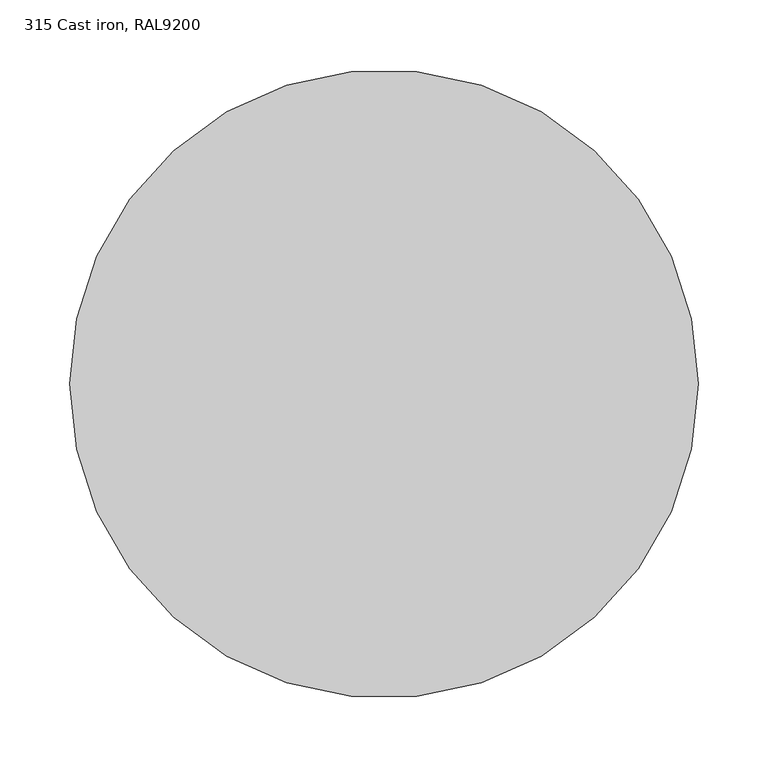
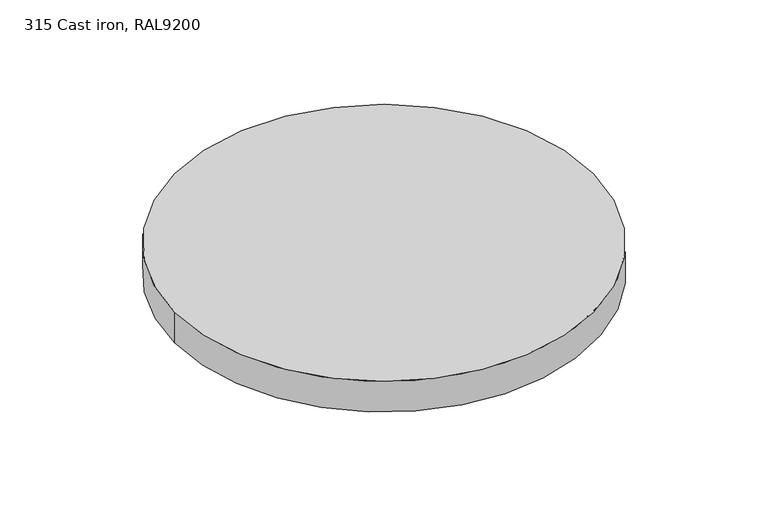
"""IFC4 building model written with IfcOpenShell, lengths in millimetres: pipe fitting geometry, Z_PIF_UN_Q-Bic_Plus_Round_Cover_Wavin_(nested) : 315 Cast iron, RAL9200."""

import ifcopenshell
import ifcopenshell.guid

model = None  # the IFC model being written
_history = None  # IfcOwnerHistory: only IFC2X3 demands one
_inside = {}  # id of a spatial element -> (the spatial element, [elements in it])
_under = {}  # id of a project, library or spatial element -> (it, [spatial elements below it])
_declared = {}  # id of a project -> (the project, [libraries it declares])
_typed = {}  # id of a type object -> (the type object, [elements of that type])
_made_of = {}  # id of a material, layer set ... -> (it, [elements and type objects made of it])


def new_model(schema):
    """Start an empty IFC model of exactly this schema.

    Asked for "IFC4X3", IfcOpenShell would pick the latest addendum, in which some entities
    have other attributes; the version numbers below select the first issue.
    IFC2X3 requires an IfcOwnerHistory on every rooted entity: one is made here for all.
    """
    global model, _history
    if schema == "IFC4X3":
        model = ifcopenshell.file(schema_version=(4, 3, 0, 0))
    else:
        model = ifcopenshell.file(schema=schema)
    _inside.clear()
    _under.clear()
    _declared.clear()
    _typed.clear()
    _made_of.clear()
    _history = None
    if model.schema == "IFC2X3":
        org = make("IfcOrganization", Name="unknown")
        user = make(
            "IfcPersonAndOrganization",
            ThePerson=make("IfcPerson", FamilyName="unknown"),
            TheOrganization=org,
        )
        app = make(
            "IfcApplication",
            ApplicationDeveloper=org,
            Version="unknown",
            ApplicationFullName="unknown",
            ApplicationIdentifier="unknown",
        )
        _history = make(
            "IfcOwnerHistory",
            OwningUser=user,
            OwningApplication=app,
            ChangeAction="ADDED",
            CreationDate=0,
        )
    return model


def make(cls, **values):
    """One entity of the class cls with the attributes given. An attribute that is None is left unset."""
    return model.create_entity(
        cls, **{name: value for name, value in values.items() if value is not None}
    )


def rooted(cls, **values):
    """An entity with a GlobalId (a new one), such as an element, a storey or a relation."""
    return make(cls, GlobalId=ifcopenshell.guid.new(), OwnerHistory=_history, **values)


def si_unit(unit_type, name, prefix=None):
    """IfcSIUnit, for example si_unit("LENGTHUNIT", "METRE", prefix="MILLI")."""
    return make("IfcSIUnit", UnitType=unit_type, Prefix=prefix, Name=name)


def assignment(units):
    """IfcUnitAssignment: the units of a project."""
    return None if units is None else make("IfcUnitAssignment", Units=units)


def point(xyz):
    """IfcCartesianPoint."""
    return None if xyz is None else make("IfcCartesianPoint", Coordinates=xyz)


def direction(xyz):
    """IfcDirection."""
    return None if xyz is None else make("IfcDirection", DirectionRatios=xyz)


def frame(location, z_axis=None, x_axis=None):
    """IfcAxis2Placement3D, a coordinate frame: its origin and axes. An axis left out is left unset."""
    return make(
        "IfcAxis2Placement3D",
        Location=point(location),
        Axis=direction(z_axis),
        RefDirection=direction(x_axis),
    )


def frame_2d(location, x_axis=None):
    """IfcAxis2Placement2D, a coordinate frame in the plane: its origin and x axis."""
    return make(
        "IfcAxis2Placement2D", Location=point(location), RefDirection=direction(x_axis)
    )


def origin():
    """The frame at (0, 0, 0) with its axes left unset."""
    return frame((0.0, 0.0, 0.0))


def origin_2d():
    """The frame at (0, 0) in the plane with its x axis left unset."""
    return frame_2d((0.0, 0.0))


def place(relative_to, where):
    """IfcLocalPlacement: puts the frame where relative to a parent placement (None: the world)."""
    return make(
        "IfcLocalPlacement", PlacementRelTo=relative_to, RelativePlacement=where
    )


def context(
    kind, dimensions, precision=None, world=None, true_north=None, identifier=None
):
    """IfcGeometricRepresentationContext, for example the 3D "Model" context."""
    return make(
        "IfcGeometricRepresentationContext",
        ContextIdentifier=identifier,
        ContextType=kind,
        CoordinateSpaceDimension=dimensions,
        Precision=precision,
        WorldCoordinateSystem=world,
        TrueNorth=true_north,
    )


def project(units=None, contexts=None):
    """IfcProject with its units and contexts."""
    return rooted(
        "IfcProject",
        Name="project",
        RepresentationContexts=contexts,
        UnitsInContext=assignment(units),
    )


def spatial(cls, under=None, at=None, **own):
    """A site, building, storey or space (cls), placed at a placement, below another one or the project."""
    s = rooted(cls, ObjectPlacement=at, **own)
    if under is not None:
        _under.setdefault(under.id(), (under, []))[1].append(s)
    return s


def circle_curve(where, radius):
    """IfcCircle in the frame where."""
    return make("IfcCircle", Position=where, Radius=radius)


def trimmed(basis, trim1, trim2, sense, master):
    """IfcTrimmedCurve: the piece of a basis curve between two trims."""
    return make(
        "IfcTrimmedCurve",
        BasisCurve=basis,
        Trim1=trim1,
        Trim2=trim2,
        SenseAgreement=sense,
        MasterRepresentation=master,
    )


def segment(curve, same_sense, transition):
    """IfcCompositeCurveSegment."""
    return make(
        "IfcCompositeCurveSegment",
        Transition=transition,
        SameSense=same_sense,
        ParentCurve=curve,
    )


def composite_curve(segments, self_intersect=None):
    """IfcCompositeCurve: segments joined end to end."""
    return make("IfcCompositeCurve", Segments=segments, SelfIntersect=self_intersect)


def outline(outer, holes=None, kind="AREA"):
    """IfcArbitraryClosedProfileDef: a profile drawn as a closed curve; with holes, ...WithVoids."""
    if holes is None:
        return make("IfcArbitraryClosedProfileDef", ProfileType=kind, OuterCurve=outer)
    return make(
        "IfcArbitraryProfileDefWithVoids",
        ProfileType=kind,
        OuterCurve=outer,
        InnerCurves=holes,
    )


def extrude(swept, where, along, depth):
    """IfcExtrudedAreaSolid: the profile swept, set in the frame where, extruded along a direction by depth."""
    return make(
        "IfcExtrudedAreaSolid",
        SweptArea=swept,
        Position=where,
        ExtrudedDirection=direction(along),
        Depth=depth,
    )


def shape(context_of_items, identifier, shape_type, items):
    """IfcShapeRepresentation: the items that make up one representation, for example the "Body"."""
    return make(
        "IfcShapeRepresentation",
        ContextOfItems=context_of_items,
        RepresentationIdentifier=identifier,
        RepresentationType=shape_type,
        Items=items,
    )


def source(mapping_origin, context_of_items, identifier, shape_type, items):
    """IfcRepresentationMap: a shape defined once, which mapped items show again and again."""
    return make(
        "IfcRepresentationMap",
        MappingOrigin=mapping_origin,
        MappedRepresentation=shape(context_of_items, identifier, shape_type, items),
    )


def transform(
    local_origin,
    x_axis=None,
    y_axis=None,
    z_axis=None,
    scale=None,
    scale2=None,
    scale3=None,
    uniform=True,
):
    """IfcCartesianTransformationOperator3D, or its non-uniform kind. x_axis, y_axis, z_axis: its Axis1, 2, 3."""
    if uniform:
        return make(
            "IfcCartesianTransformationOperator3D",
            Axis1=direction(x_axis),
            Axis2=direction(y_axis),
            LocalOrigin=point(local_origin),
            Scale=scale,
            Axis3=direction(z_axis),
        )
    return make(
        "IfcCartesianTransformationOperator3DnonUniform",
        Axis1=direction(x_axis),
        Axis2=direction(y_axis),
        LocalOrigin=point(local_origin),
        Scale=scale,
        Axis3=direction(z_axis),
        Scale2=scale2,
        Scale3=scale3,
    )


def mapped(mapping_source, mapping_target):
    """IfcMappedItem: shows the shape of a source again, moved by a transform."""
    return make(
        "IfcMappedItem", MappingSource=mapping_source, MappingTarget=mapping_target
    )


def made_of(thing, what):
    """Note that an element or type object is made of a material, layer set ...; save() writes the relation."""
    if what is not None:
        _made_of.setdefault(what.id(), (what, []))[1].append(thing)
    return thing


def element(
    cls,
    number,
    at=None,
    inside=None,
    cuts=None,
    type_object=None,
    material=None,
    context=None,
    identifier="Body",
    shape_type=None,
    held_by="IfcProductDefinitionShape",
    body=None,
    shapes=None,
    **own,
):
    """One element of the class cls, such as IfcWall. Its Tag is "e" and its number.

    at: its placement. inside: the storey or other place that contains it. cuts: it is an
    opening in that element (IfcRelVoidsElement). A single representation is given by context,
    identifier, shape_type and body (its items); several are given by shapes. held_by: the class
    of the entity that holds the representations. save() writes the other relations.
    """
    e = rooted(cls, Tag="e%d" % number, ObjectPlacement=at, **own)
    if body is not None:
        shapes = [shape(context, identifier, shape_type, body)]
    if shapes is not None:
        e.Representation = make(held_by, Representations=shapes)
    if inside is not None:
        _inside.setdefault(inside.id(), (inside, []))[1].append(e)
    if cuts is not None:
        rooted(
            "IfcRelVoidsElement", RelatingBuildingElement=cuts, RelatedOpeningElement=e
        )
    if type_object is not None:
        _typed.setdefault(type_object.id(), (type_object, []))[1].append(e)
    return made_of(e, material)


def aggregate(whole, parts):
    """IfcRelAggregates: a whole, such as a stair, and the parts it consists of."""
    return rooted("IfcRelAggregates", RelatingObject=whole, RelatedObjects=parts)


def save(model, path):
    """Write the relations noted so far, then the file.

    IfcRelAggregates (storeys below a building ...), IfcRelContainedInSpatialStructure (elements
    in a storey), IfcRelDefinesByType, IfcRelAssociatesMaterial and IfcRelDeclares: one each for
    every whole, place, type object, material and project.
    """
    for whole, parts in _under.values():
        aggregate(whole, parts)
    for where, things in _inside.values():
        rooted(
            "IfcRelContainedInSpatialStructure",
            RelatedElements=things,
            RelatingStructure=where,
        )
    for kind, things in _typed.values():
        rooted("IfcRelDefinesByType", RelatedObjects=things, RelatingType=kind)
    for what, things in _made_of.values():
        rooted("IfcRelAssociatesMaterial", RelatedObjects=things, RelatingMaterial=what)
    for by, libraries in _declared.values():
        rooted("IfcRelDeclares", RelatingContext=by, RelatedDefinitions=libraries)
    model.write(path)


def pipe_fitting_315_cast_iron_ral9200_b04730d4(model_context):
    return source(origin(), model_context, "Body", "SweptSolid", [
        extrude(outline(composite_curve([segment(trimmed(circle_curve(origin_2d(), 225.0), [point((-225.0, 0.0))], [point((225.0, 0.0))], False, "CARTESIAN"), True, "CONTINUOUS"), segment(trimmed(circle_curve(origin_2d(), 225.0), [point((225.0, 0.0))], [point((-225.0, 0.0))], False, "CARTESIAN"), True, "CONTINUOUS")], self_intersect=False)), frame((0.0, 0.0, -35.0), z_axis=(0.0, 0.0, 1.0), x_axis=(1.0, 0.0, 0.0)), (0.0, 0.0, 1.0), 35.0),
    ])


if __name__ == "__main__":
    model = new_model("IFC4")
    model_context = context("Model", 3, world=origin())
    ifc_project = project(units=[si_unit("LENGTHUNIT", "METRE", prefix="MILLI")], contexts=[model_context])
    site = spatial("IfcSite", under=ifc_project)
    building = spatial("IfcBuilding", under=site)
    placement = place(None, origin())
    pipe_fitting_315_cast_iron_ral9200_shape = pipe_fitting_315_cast_iron_ral9200_b04730d4(model_context)
    element("IfcPipeFitting", 1, ObjectType="Z_PIF_UN_Q-Bic_Plus_Round_Cover_Wavin_(nested) : 315 Cast iron, RAL9200", at=placement, inside=building, context=model_context, shape_type="MappedRepresentation", body=[
        mapped(pipe_fitting_315_cast_iron_ral9200_shape, transform((0.0, 0.0, 0.0), x_axis=(1.0, 0.0, 0.0), y_axis=(0.0, 1.0, 0.0), z_axis=(0.0, 0.0, 1.0))),
    ])
    save(model, "model.ifc")
